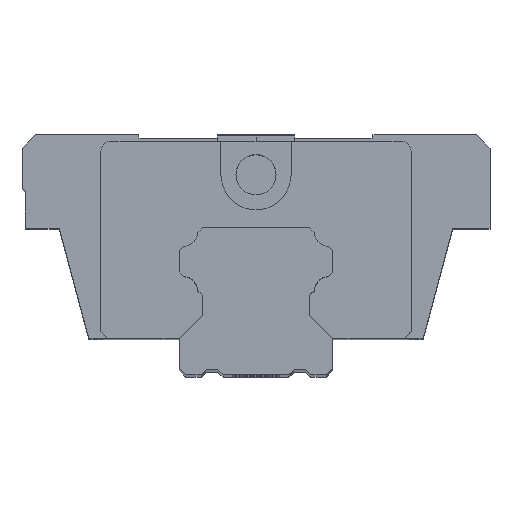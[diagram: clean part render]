
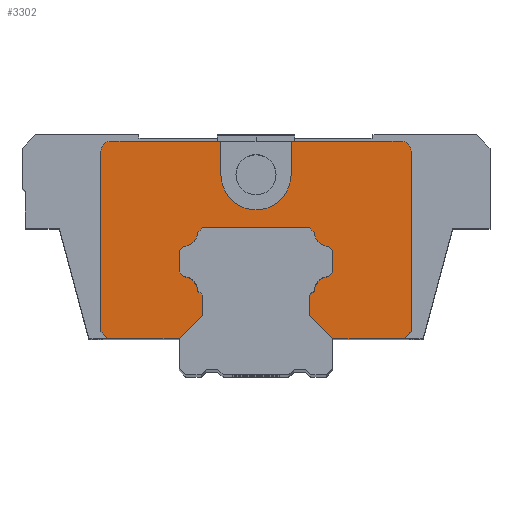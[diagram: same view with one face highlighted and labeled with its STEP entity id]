
A CAD part, top view. The second image highlights one B-rep face of the part: STEP entity #3302.
In plain terms, the highlighted planar face has unit normal (0, 0, 1).
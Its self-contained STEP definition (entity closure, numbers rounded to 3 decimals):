
#610=DIRECTION('',(0.,1.,0.));
#611=VECTOR('',#610,5.);
#612=CARTESIAN_POINT('',(-5.25,30.,52.3));
#613=LINE('',#612,#611);
#614=CARTESIAN_POINT('',(0.,30.,52.3));
#615=DIRECTION('',(0.,0.,-1.));
#616=DIRECTION('',(1.,0.,0.));
#617=AXIS2_PLACEMENT_3D('',#614,#615,#616);
#619=DIRECTION('',(0.,-1.,0.));
#620=VECTOR('',#619,5.);
#621=CARTESIAN_POINT('',(5.25,35.,52.3));
#622=LINE('',#621,#620);
#623=DIRECTION('',(-1.,0.,0.));
#624=VECTOR('',#623,16.45);
#625=CARTESIAN_POINT('',(21.7,35.,52.3));
#626=LINE('',#625,#624);
#627=CARTESIAN_POINT('',(21.7,33.5,52.3));
#628=DIRECTION('',(0.,0.,1.));
#629=DIRECTION('',(1.,0.,0.));
#630=AXIS2_PLACEMENT_3D('',#627,#628,#629);
#632=DIRECTION('',(0.,1.,0.));
#633=VECTOR('',#632,27.);
#634=CARTESIAN_POINT('',(23.2,6.5,52.3));
#635=LINE('',#634,#633);
#636=DIRECTION('',(0.707,0.707,0.));
#637=VECTOR('',#636,1.414);
#638=CARTESIAN_POINT('',(22.2,5.5,52.3));
#639=LINE('',#638,#637);
#640=DIRECTION('',(1.,0.,0.));
#641=VECTOR('',#640,10.7);
#642=CARTESIAN_POINT('',(11.5,5.5,52.3));
#643=LINE('',#642,#641);
#644=DIRECTION('',(0.707,-0.707,0.));
#645=VECTOR('',#644,4.879);
#646=CARTESIAN_POINT('',(8.05,8.95,52.3));
#647=LINE('',#646,#645);
#648=DIRECTION('',(0.,-1.,0.));
#649=VECTOR('',#648,3.);
#650=CARTESIAN_POINT('',(8.05,11.95,52.3));
#651=LINE('',#650,#649);
#652=DIRECTION('',(-0.707,-0.707,0.));
#653=VECTOR('',#652,0.918);
#654=CARTESIAN_POINT('',(8.699,12.599,52.3));
#655=LINE('',#654,#653);
#656=CARTESIAN_POINT('',(10.995,12.455,52.3));
#657=DIRECTION('',(0.,0.,1.));
#658=DIRECTION('',(-0.063,0.998,0.));
#659=AXIS2_PLACEMENT_3D('',#656,#657,#658);
#661=DIRECTION('',(-0.707,-0.707,0.));
#662=VECTOR('',#661,0.918);
#663=CARTESIAN_POINT('',(11.5,15.4,52.3));
#664=LINE('',#663,#662);
#665=DIRECTION('',(0.,-1.,0.));
#666=VECTOR('',#665,3.15);
#667=CARTESIAN_POINT('',(11.5,18.55,52.3));
#668=LINE('',#667,#666);
#669=DIRECTION('',(0.707,-0.707,0.));
#670=VECTOR('',#669,0.918);
#671=CARTESIAN_POINT('',(10.851,19.199,52.3));
#672=LINE('',#671,#670);
#673=CARTESIAN_POINT('',(10.995,21.495,52.3));
#674=DIRECTION('',(0.,0.,1.));
#675=DIRECTION('',(-0.998,-0.063,0.));
#676=AXIS2_PLACEMENT_3D('',#673,#674,#675);
#678=DIRECTION('',(0.707,-0.707,0.));
#679=VECTOR('',#678,0.918);
#680=CARTESIAN_POINT('',(8.05,22.,52.3));
#681=LINE('',#680,#679);
#682=DIRECTION('',(1.,0.,0.));
#683=VECTOR('',#682,16.1);
#684=CARTESIAN_POINT('',(-8.05,22.,52.3));
#685=LINE('',#684,#683);
#686=DIRECTION('',(0.707,0.707,0.));
#687=VECTOR('',#686,0.918);
#688=CARTESIAN_POINT('',(-8.699,21.351,52.3));
#689=LINE('',#688,#687);
#690=CARTESIAN_POINT('',(-10.995,21.495,52.3));
#691=DIRECTION('',(0.,0.,1.));
#692=DIRECTION('',(0.063,-0.998,0.));
#693=AXIS2_PLACEMENT_3D('',#690,#691,#692);
#695=DIRECTION('',(0.707,0.707,0.));
#696=VECTOR('',#695,0.918);
#697=CARTESIAN_POINT('',(-11.5,18.55,52.3));
#698=LINE('',#697,#696);
#699=DIRECTION('',(0.,1.,0.));
#700=VECTOR('',#699,3.15);
#701=CARTESIAN_POINT('',(-11.5,15.4,52.3));
#702=LINE('',#701,#700);
#703=DIRECTION('',(-0.707,0.707,0.));
#704=VECTOR('',#703,0.918);
#705=CARTESIAN_POINT('',(-10.851,14.751,52.3));
#706=LINE('',#705,#704);
#707=CARTESIAN_POINT('',(-10.995,12.455,52.3));
#708=DIRECTION('',(0.,0.,1.));
#709=DIRECTION('',(0.998,0.063,0.));
#710=AXIS2_PLACEMENT_3D('',#707,#708,#709);
#712=DIRECTION('',(-0.707,0.707,0.));
#713=VECTOR('',#712,0.918);
#714=CARTESIAN_POINT('',(-8.05,11.95,52.3));
#715=LINE('',#714,#713);
#716=DIRECTION('',(0.,1.,0.));
#717=VECTOR('',#716,3.);
#718=CARTESIAN_POINT('',(-8.05,8.95,52.3));
#719=LINE('',#718,#717);
#720=DIRECTION('',(0.707,0.707,0.));
#721=VECTOR('',#720,4.879);
#722=CARTESIAN_POINT('',(-11.5,5.5,52.3));
#723=LINE('',#722,#721);
#724=DIRECTION('',(1.,0.,0.));
#725=VECTOR('',#724,10.7);
#726=CARTESIAN_POINT('',(-22.2,5.5,52.3));
#727=LINE('',#726,#725);
#728=DIRECTION('',(0.707,-0.707,0.));
#729=VECTOR('',#728,1.414);
#730=CARTESIAN_POINT('',(-23.2,6.5,52.3));
#731=LINE('',#730,#729);
#732=DIRECTION('',(0.,-1.,0.));
#733=VECTOR('',#732,27.);
#734=CARTESIAN_POINT('',(-23.2,33.5,52.3));
#735=LINE('',#734,#733);
#736=CARTESIAN_POINT('',(-21.7,33.5,52.3));
#737=DIRECTION('',(0.,0.,1.));
#738=DIRECTION('',(0.,1.,0.));
#739=AXIS2_PLACEMENT_3D('',#736,#737,#738);
#741=DIRECTION('',(-1.,0.,0.));
#742=VECTOR('',#741,16.45);
#743=CARTESIAN_POINT('',(-5.25,35.,52.3));
#744=LINE('',#743,#742);
#2189=CARTESIAN_POINT('',(-5.25,30.,52.3));
#2190=CARTESIAN_POINT('',(-5.25,35.,52.3));
#2191=VERTEX_POINT('',#2189);
#2192=VERTEX_POINT('',#2190);
#2193=CARTESIAN_POINT('',(-21.7,35.,52.3));
#2194=VERTEX_POINT('',#2193);
#2195=CARTESIAN_POINT('',(-23.2,33.5,52.3));
#2196=VERTEX_POINT('',#2195);
#2197=CARTESIAN_POINT('',(-23.2,6.5,52.3));
#2198=VERTEX_POINT('',#2197);
#2199=CARTESIAN_POINT('',(-22.2,5.5,52.3));
#2200=VERTEX_POINT('',#2199);
#2201=CARTESIAN_POINT('',(-11.5,5.5,52.3));
#2202=VERTEX_POINT('',#2201);
#2203=CARTESIAN_POINT('',(-8.05,8.95,52.3));
#2204=VERTEX_POINT('',#2203);
#2205=CARTESIAN_POINT('',(-8.05,11.95,52.3));
#2206=VERTEX_POINT('',#2205);
#2207=CARTESIAN_POINT('',(-8.699,12.599,52.3));
#2208=VERTEX_POINT('',#2207);
#2209=CARTESIAN_POINT('',(-10.851,14.751,52.3));
#2210=VERTEX_POINT('',#2209);
#2211=CARTESIAN_POINT('',(-11.5,15.4,52.3));
#2212=VERTEX_POINT('',#2211);
#2213=CARTESIAN_POINT('',(-11.5,18.55,52.3));
#2214=VERTEX_POINT('',#2213);
#2215=CARTESIAN_POINT('',(-10.851,19.199,52.3));
#2216=VERTEX_POINT('',#2215);
#2217=CARTESIAN_POINT('',(-8.699,21.351,52.3));
#2218=VERTEX_POINT('',#2217);
#2219=CARTESIAN_POINT('',(-8.05,22.,52.3));
#2220=VERTEX_POINT('',#2219);
#2221=CARTESIAN_POINT('',(8.05,22.,52.3));
#2222=VERTEX_POINT('',#2221);
#2223=CARTESIAN_POINT('',(8.699,21.351,52.3));
#2224=VERTEX_POINT('',#2223);
#2225=CARTESIAN_POINT('',(10.851,19.199,52.3));
#2226=VERTEX_POINT('',#2225);
#2227=CARTESIAN_POINT('',(11.5,18.55,52.3));
#2228=VERTEX_POINT('',#2227);
#2229=CARTESIAN_POINT('',(11.5,15.4,52.3));
#2230=VERTEX_POINT('',#2229);
#2231=CARTESIAN_POINT('',(10.851,14.751,52.3));
#2232=VERTEX_POINT('',#2231);
#2233=CARTESIAN_POINT('',(8.699,12.599,52.3));
#2234=VERTEX_POINT('',#2233);
#2235=CARTESIAN_POINT('',(8.05,11.95,52.3));
#2236=VERTEX_POINT('',#2235);
#2237=CARTESIAN_POINT('',(8.05,8.95,52.3));
#2238=VERTEX_POINT('',#2237);
#2239=CARTESIAN_POINT('',(11.5,5.5,52.3));
#2240=VERTEX_POINT('',#2239);
#2241=CARTESIAN_POINT('',(22.2,5.5,52.3));
#2242=VERTEX_POINT('',#2241);
#2243=CARTESIAN_POINT('',(23.2,6.5,52.3));
#2244=VERTEX_POINT('',#2243);
#2245=CARTESIAN_POINT('',(23.2,33.5,52.3));
#2246=VERTEX_POINT('',#2245);
#2247=CARTESIAN_POINT('',(21.7,35.,52.3));
#2248=VERTEX_POINT('',#2247);
#2249=CARTESIAN_POINT('',(5.25,35.,52.3));
#2250=VERTEX_POINT('',#2249);
#2251=CARTESIAN_POINT('',(5.25,30.,52.3));
#2252=VERTEX_POINT('',#2251);
#3245=CARTESIAN_POINT('',(-35.,36.,52.3));
#3246=DIRECTION('',(0.,0.,1.));
#3247=DIRECTION('',(1.,0.,0.));
#3248=AXIS2_PLACEMENT_3D('',#3245,#3246,#3247);
#3249=PLANE('',#3248);
#3251=ORIENTED_EDGE('',*,*,#3250,.F.);
#3252=ORIENTED_EDGE('',*,*,#3236,.F.);
#3253=ORIENTED_EDGE('',*,*,#3173,.F.);
#3254=ORIENTED_EDGE('',*,*,#3160,.F.);
#3256=ORIENTED_EDGE('',*,*,#3255,.F.);
#3258=ORIENTED_EDGE('',*,*,#3257,.F.);
#3260=ORIENTED_EDGE('',*,*,#3259,.F.);
#3261=ORIENTED_EDGE('',*,*,#2511,.F.);
#3262=ORIENTED_EDGE('',*,*,#2496,.F.);
#3263=ORIENTED_EDGE('',*,*,#2481,.F.);
#3264=ORIENTED_EDGE('',*,*,#2466,.F.);
#3265=ORIENTED_EDGE('',*,*,#2451,.F.);
#3266=ORIENTED_EDGE('',*,*,#2436,.F.);
#3267=ORIENTED_EDGE('',*,*,#2421,.F.);
#3268=ORIENTED_EDGE('',*,*,#2406,.F.);
#3269=ORIENTED_EDGE('',*,*,#2391,.F.);
#3270=ORIENTED_EDGE('',*,*,#2376,.F.);
#3272=ORIENTED_EDGE('',*,*,#3271,.F.);
#3274=ORIENTED_EDGE('',*,*,#3273,.F.);
#3276=ORIENTED_EDGE('',*,*,#3275,.F.);
#3278=ORIENTED_EDGE('',*,*,#3277,.F.);
#3280=ORIENTED_EDGE('',*,*,#3279,.F.);
#3282=ORIENTED_EDGE('',*,*,#3281,.F.);
#3284=ORIENTED_EDGE('',*,*,#3283,.F.);
#3286=ORIENTED_EDGE('',*,*,#3285,.F.);
#3288=ORIENTED_EDGE('',*,*,#3287,.F.);
#3290=ORIENTED_EDGE('',*,*,#3289,.F.);
#3292=ORIENTED_EDGE('',*,*,#3291,.F.);
#3294=ORIENTED_EDGE('',*,*,#3293,.F.);
#3296=ORIENTED_EDGE('',*,*,#3295,.F.);
#3298=ORIENTED_EDGE('',*,*,#3297,.F.);
#3299=ORIENTED_EDGE('',*,*,#3138,.F.);
#3300=EDGE_LOOP('',(#3251,#3252,#3253,#3254,#3256,#3258,#3260,#3261,#3262,#3263,
#3264,#3265,#3266,#3267,#3268,#3269,#3270,#3272,#3274,#3276,#3278,#3280,#3282,
#3284,#3286,#3288,#3290,#3292,#3294,#3296,#3298,#3299));
#3301=FACE_OUTER_BOUND('',#3300,.F.);
#3302=ADVANCED_FACE('',(#3301),#3249,.T.);
#618=CIRCLE('',#617,5.25);
#631=CIRCLE('',#630,1.5);
#660=CIRCLE('',#659,2.3);
#677=CIRCLE('',#676,2.3);
#694=CIRCLE('',#693,2.3);
#711=CIRCLE('',#710,2.3);
#740=CIRCLE('',#739,1.5);
#2376=EDGE_CURVE('',#2222,#2224,#681,.T.);
#2391=EDGE_CURVE('',#2224,#2226,#677,.T.);
#2406=EDGE_CURVE('',#2226,#2228,#672,.T.);
#2421=EDGE_CURVE('',#2228,#2230,#668,.T.);
#2436=EDGE_CURVE('',#2230,#2232,#664,.T.);
#2451=EDGE_CURVE('',#2232,#2234,#660,.T.);
#2466=EDGE_CURVE('',#2234,#2236,#655,.T.);
#2481=EDGE_CURVE('',#2236,#2238,#651,.T.);
#2496=EDGE_CURVE('',#2238,#2240,#647,.T.);
#2511=EDGE_CURVE('',#2240,#2242,#643,.T.);
#3138=EDGE_CURVE('',#2192,#2194,#744,.T.);
#3160=EDGE_CURVE('',#2248,#2250,#626,.T.);
#3173=EDGE_CURVE('',#2250,#2252,#622,.T.);
#3236=EDGE_CURVE('',#2252,#2191,#618,.T.);
#3250=EDGE_CURVE('',#2191,#2192,#613,.T.);
#3255=EDGE_CURVE('',#2246,#2248,#631,.T.);
#3257=EDGE_CURVE('',#2244,#2246,#635,.T.);
#3259=EDGE_CURVE('',#2242,#2244,#639,.T.);
#3271=EDGE_CURVE('',#2220,#2222,#685,.T.);
#3273=EDGE_CURVE('',#2218,#2220,#689,.T.);
#3275=EDGE_CURVE('',#2216,#2218,#694,.T.);
#3277=EDGE_CURVE('',#2214,#2216,#698,.T.);
#3279=EDGE_CURVE('',#2212,#2214,#702,.T.);
#3281=EDGE_CURVE('',#2210,#2212,#706,.T.);
#3283=EDGE_CURVE('',#2208,#2210,#711,.T.);
#3285=EDGE_CURVE('',#2206,#2208,#715,.T.);
#3287=EDGE_CURVE('',#2204,#2206,#719,.T.);
#3289=EDGE_CURVE('',#2202,#2204,#723,.T.);
#3291=EDGE_CURVE('',#2200,#2202,#727,.T.);
#3293=EDGE_CURVE('',#2198,#2200,#731,.T.);
#3295=EDGE_CURVE('',#2196,#2198,#735,.T.);
#3297=EDGE_CURVE('',#2194,#2196,#740,.T.);
